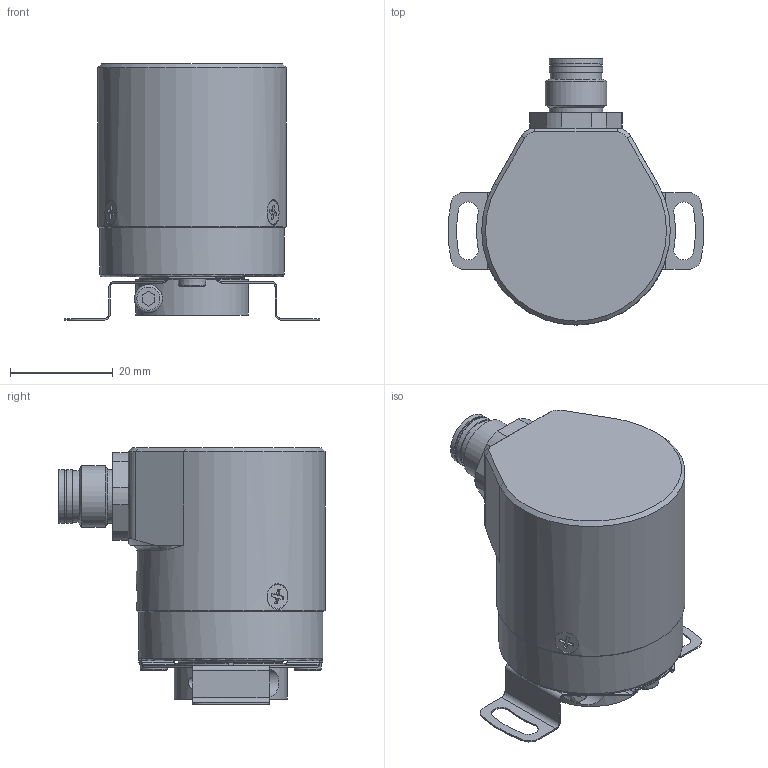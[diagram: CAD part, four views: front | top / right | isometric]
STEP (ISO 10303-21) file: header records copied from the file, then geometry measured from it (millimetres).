
FILE_DESCRIPTION(/* description */ ('Unknown'),/* implementation_level */ '2;1');
FILE_NAME(/* name */ 'EA_EAM_36F_10mm_M12R',/* time_stamp */ '2019-06-26T13:42:05+02:00',/* author */ ('Unknown'),/* organization */ ('Unknown'),/* preprocessor_version */ 'ST-DEVELOPER v16.7',/* originating_system */ 'DEX',/* authorisation */ $);
FILE_SCHEMA (('AUTOMOTIVE_DESIGN {1 0 10303 214 3 1 1}'));
Length unit declared in the file: millimetre
Products named in the file (1): EA_EAM_36F_10mm_M12R
Bounding box: 49.86 x 51.9 x 50 mm (x, y, z)
Volume: 26203.1 mm3; surface area: 21278.2 mm2
Topology: 1 solids, 20 shells, 541 faces, 1343 edges, 888 vertices
Faces by surface type: plane 249, cylinder 193, cone 75, torus 22, bspline 2
Full cylindrical faces by diameter (mm): 0.9 x16, 1.221 x2, 1.45 x1, 1.5 x8, 1.6 x2, 2.013 x3, 2.459 x2, 2.5 x3, 2.7 x3, 3 x6, 3.2 x3, 3.242 x1, 4 x1, 8 x2, 8.25 x1, 10 x3, 10.4 x3, 11.8 x1, 12 x5, 12.4 x1, 13 x1, 14.5 x4, 14.53 x1, 15.2 x1, 18 x1, 18.5 x4, 21 x5, 21.1 x2, 24 x1, 31.3 x1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
Entity records: 18641 total; most frequent: CARTESIAN_POINT 2994, DIRECTION 2504, ORIENTED_EDGE 2160, EDGE_CURVE 1080, AXIS2_PLACEMENT_3D 1003, FACE_BOUND 796, VERTEX_POINT 794, EDGE_LOOP 788
